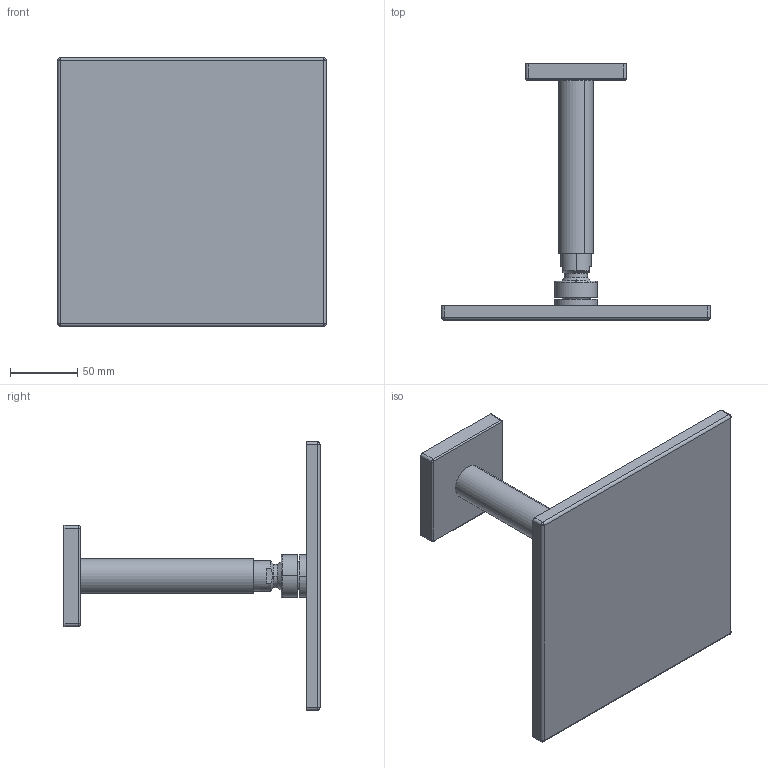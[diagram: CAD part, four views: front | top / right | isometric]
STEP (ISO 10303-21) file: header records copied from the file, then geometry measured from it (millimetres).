
FILE_DESCRIPTION (( 'STEP AP203' ), '1' );
FILE_NAME ('04190240.STEP', '2019-01-14T06:42:04', ( '' ), ( '' ), 'SwSTEP 2.0', 'SolidWorks 2016', '' );
FILE_SCHEMA (( 'CONFIG_CONTROL_DESIGN' ));
Length unit declared in the file: millimetre
Products named in the file (1): 04190240
Bounding box: 199.4 x 190.1 x 199.4 mm (x, y, z)
Volume: 561811 mm3; surface area: 115679 mm2
Topology: 1 solids, 1 shells, 79 faces, 191 edges, 113 vertices
Faces by surface type: bspline 28, cylinder 26, plane 21, cone 4
Entity records: 3711 total; most frequent: CARTESIAN_POINT 2012, ORIENTED_EDGE 366, DIRECTION 284, EDGE_CURVE 183, VERTEX_POINT 113, AXIS2_PLACEMENT_3D 109, EDGE_LOOP 86, ADVANCED_FACE 79
